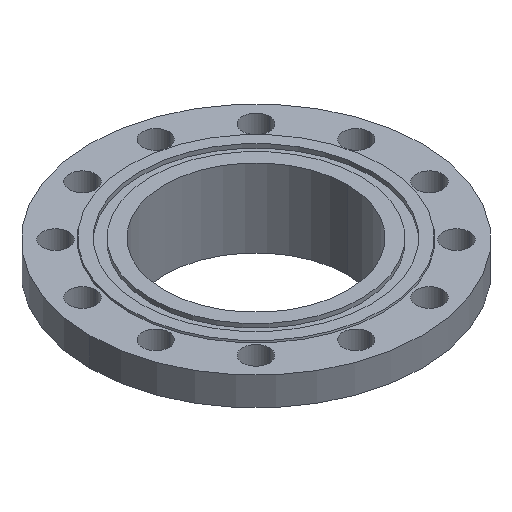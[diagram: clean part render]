
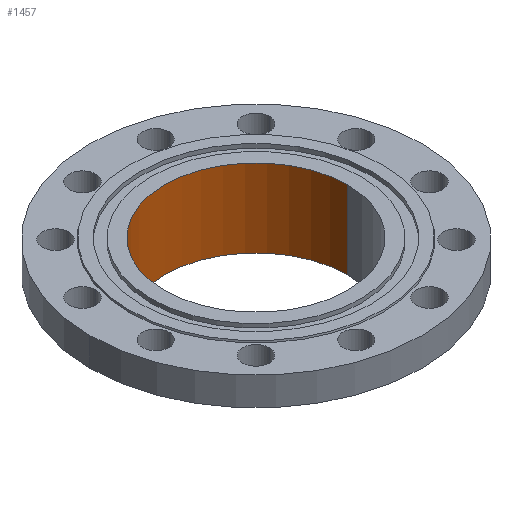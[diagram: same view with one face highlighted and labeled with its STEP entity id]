
A CAD part, isometric view. The second image highlights one B-rep face of the part: STEP entity #1457.
In plain terms, the highlighted cylindrical face has radius 103.25 mm (diameter 206.5 mm), a partial arc.
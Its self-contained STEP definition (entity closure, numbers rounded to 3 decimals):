
#25 = VERTEX_POINT ( 'NONE', #687 ) ;
#183 = DIRECTION ( 'NONE',  ( -1., 0., 0. ) ) ;
#201 = VECTOR ( 'NONE', #428, 1000. ) ;
#247 = DIRECTION ( 'NONE',  ( -1., 0., 0. ) ) ;
#309 = DIRECTION ( 'NONE',  ( 0., 0., -1. ) ) ;
#358 = EDGE_LOOP ( 'NONE', ( #807, #813, #815, #817 ) ) ;
#389 = CYLINDRICAL_SURFACE ( 'NONE', #695, 103.25 ) ;
#428 = DIRECTION ( 'NONE',  ( 0., 0., -1. ) ) ;
#486 = LINE ( 'NONE', #972, #585 ) ;
#585 = VECTOR ( 'NONE', #1355, 1000. ) ;
#592 = VERTEX_POINT ( 'NONE', #811 ) ;
#687 = CARTESIAN_POINT ( 'NONE',  ( -103.25, 0., 0. ) ) ;
#692 = EDGE_CURVE ( 'NONE', #25, #935, #486, .T. ) ;
#695 = AXIS2_PLACEMENT_3D ( 'NONE', #879, #1296, #247 ) ;
#787 = CARTESIAN_POINT ( 'NONE',  ( 103.25, 0., -88. ) ) ;
#795 = DIRECTION ( 'NONE',  ( -1., 0., 0. ) ) ;
#807 = ORIENTED_EDGE ( 'NONE', *, *, #1190, .F. ) ;
#811 = CARTESIAN_POINT ( 'NONE',  ( 103.25, 0., 0. ) ) ;
#813 = ORIENTED_EDGE ( 'NONE', *, *, #1272, .F. ) ;
#815 = ORIENTED_EDGE ( 'NONE', *, *, #692, .T. ) ;
#817 = ORIENTED_EDGE ( 'NONE', *, *, #1328, .T. ) ;
#828 = CARTESIAN_POINT ( 'NONE',  ( 0., 0., -88. ) ) ;
#879 = CARTESIAN_POINT ( 'NONE',  ( 0., 0., -98. ) ) ;
#897 = AXIS2_PLACEMENT_3D ( 'NONE', #828, #1266, #183 ) ;
#935 = VERTEX_POINT ( 'NONE', #1317 ) ;
#966 = VERTEX_POINT ( 'NONE', #787 ) ;
#972 = CARTESIAN_POINT ( 'NONE',  ( -103.25, 0., -98. ) ) ;
#1044 = LINE ( 'NONE', #1412, #201 ) ;
#1052 = CIRCLE ( 'NONE', #897, 103.25 ) ;
#1163 = AXIS2_PLACEMENT_3D ( 'NONE', #1327, #309, #795 ) ;
#1168 = CIRCLE ( 'NONE', #1163, 103.25 ) ;
#1190 = EDGE_CURVE ( 'NONE', #592, #966, #1044, .T. ) ;
#1266 = DIRECTION ( 'NONE',  ( 0., 0., -1. ) ) ;
#1272 = EDGE_CURVE ( 'NONE', #25, #592, #1168, .T. ) ;
#1296 = DIRECTION ( 'NONE',  ( 0., 0., -1. ) ) ;
#1317 = CARTESIAN_POINT ( 'NONE',  ( -103.25, 0., -88. ) ) ;
#1327 = CARTESIAN_POINT ( 'NONE',  ( 0., 0., 0. ) ) ;
#1328 = EDGE_CURVE ( 'NONE', #935, #966, #1052, .T. ) ;
#1355 = DIRECTION ( 'NONE',  ( 0., 0., -1. ) ) ;
#1384 = FACE_OUTER_BOUND ( 'NONE', #358, .T. ) ;
#1412 = CARTESIAN_POINT ( 'NONE',  ( 103.25, 0., -98. ) ) ;
#1457 = ADVANCED_FACE ( 'NONE', ( #1384 ), #389, .F. ) ;
